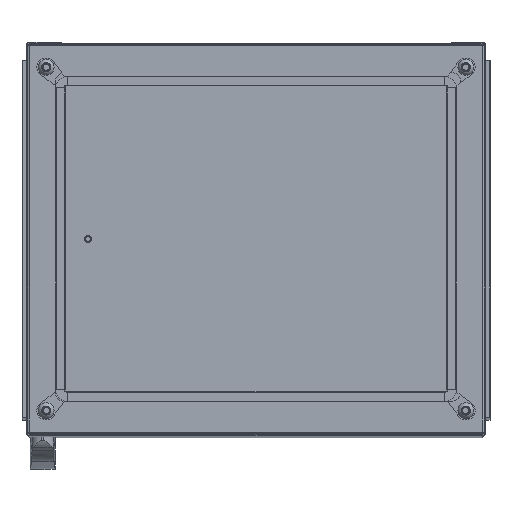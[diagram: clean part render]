
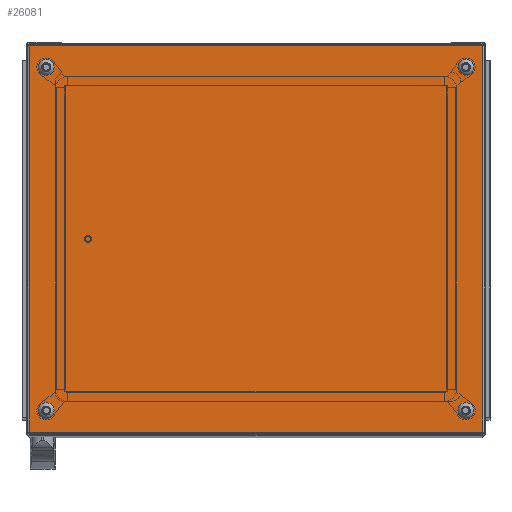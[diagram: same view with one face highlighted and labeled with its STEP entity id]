
A CAD part, top view. The second image highlights one B-rep face of the part: STEP entity #26081.
In plain terms, the highlighted planar face has unit normal (0, 0, 1).
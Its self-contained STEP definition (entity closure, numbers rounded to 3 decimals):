
#1303=CIRCLE('',#28033,6.);
#1304=CIRCLE('',#28034,6.);
#1305=CIRCLE('',#28035,6.);
#1306=CIRCLE('',#28036,6.);
#5003=ORIENTED_EDGE('',*,*,#11157,.F.);
#5004=ORIENTED_EDGE('',*,*,#11158,.F.);
#5005=ORIENTED_EDGE('',*,*,#11159,.F.);
#5006=ORIENTED_EDGE('',*,*,#11160,.F.);
#5007=ORIENTED_EDGE('',*,*,#11146,.T.);
#5008=ORIENTED_EDGE('',*,*,#11154,.T.);
#5009=ORIENTED_EDGE('',*,*,#11117,.F.);
#5010=ORIENTED_EDGE('',*,*,#11161,.F.);
#11117=EDGE_CURVE('',#14429,#14430,#17029,.T.);
#11146=EDGE_CURVE('',#14451,#14450,#17035,.T.);
#11154=EDGE_CURVE('',#14450,#14430,#17040,.T.);
#11157=EDGE_CURVE('',#14452,#14452,#1303,.T.);
#11158=EDGE_CURVE('',#14453,#14453,#1304,.T.);
#11159=EDGE_CURVE('',#14454,#14454,#1305,.T.);
#11160=EDGE_CURVE('',#14455,#14455,#1306,.T.);
#11161=EDGE_CURVE('',#14451,#14429,#17043,.T.);
#14429=VERTEX_POINT('',#40797);
#14430=VERTEX_POINT('',#40799);
#14450=VERTEX_POINT('',#40873);
#14451=VERTEX_POINT('',#40875);
#14452=VERTEX_POINT('',#40892);
#14453=VERTEX_POINT('',#40894);
#14454=VERTEX_POINT('',#40896);
#14455=VERTEX_POINT('',#40898);
#17029=LINE('',#40798,#19310);
#17035=LINE('',#40874,#19316);
#17040=LINE('',#40886,#19321);
#17043=LINE('',#40899,#19324);
#19310=VECTOR('',#32711,1000.);
#19316=VECTOR('',#32765,1000.);
#19321=VECTOR('',#32782,1000.);
#19324=VECTOR('',#32797,1000.);
#21289=EDGE_LOOP('',(#5003));
#21290=EDGE_LOOP('',(#5004));
#21291=EDGE_LOOP('',(#5005));
#21292=EDGE_LOOP('',(#5006));
#21293=EDGE_LOOP('',(#5007,#5008,#5009,#5010));
#23408=FACE_BOUND('',#21289,.T.);
#23409=FACE_BOUND('',#21290,.T.);
#23410=FACE_BOUND('',#21291,.T.);
#23411=FACE_BOUND('',#21292,.T.);
#23412=FACE_BOUND('',#21293,.T.);
#25184=PLANE('',#28032);
#26081=ADVANCED_FACE('',(#23408,#23409,#23410,#23411,#23412),#25184,.T.);
#28032=AXIS2_PLACEMENT_3D('',#40890,#32787,#32788);
#28033=AXIS2_PLACEMENT_3D('',#40891,#32789,#32790);
#28034=AXIS2_PLACEMENT_3D('',#40893,#32791,#32792);
#28035=AXIS2_PLACEMENT_3D('',#40895,#32793,#32794);
#28036=AXIS2_PLACEMENT_3D('',#40897,#32795,#32796);
#32711=DIRECTION('',(-1.,0.,0.));
#32765=DIRECTION('',(-1.,0.,0.));
#32782=DIRECTION('',(0.,-1.,0.));
#32787=DIRECTION('',(0.,0.,1.));
#32788=DIRECTION('',(1.,0.,0.));
#32789=DIRECTION('',(0.,0.,1.));
#32790=DIRECTION('',(1.,0.,0.));
#32791=DIRECTION('',(0.,0.,1.));
#32792=DIRECTION('',(1.,0.,0.));
#32793=DIRECTION('',(0.,0.,1.));
#32794=DIRECTION('',(1.,0.,0.));
#32795=DIRECTION('',(0.,0.,1.));
#32796=DIRECTION('',(1.,0.,0.));
#32797=DIRECTION('',(0.,-1.,0.));
#40797=CARTESIAN_POINT('',(296.5,-252.5,20.));
#40798=CARTESIAN_POINT('',(300.,-252.5,20.));
#40799=CARTESIAN_POINT('',(-296.5,-252.5,20.));
#40873=CARTESIAN_POINT('',(-296.5,252.5,20.));
#40874=CARTESIAN_POINT('',(300.,252.5,20.));
#40875=CARTESIAN_POINT('',(296.5,252.5,20.));
#40886=CARTESIAN_POINT('',(-296.5,255.5,20.));
#40890=CARTESIAN_POINT('',(-296.5,-252.5,20.));
#40891=CARTESIAN_POINT('',(274.5,-224.5,20.));
#40892=CARTESIAN_POINT('',(280.5,-224.5,20.));
#40893=CARTESIAN_POINT('',(-274.5,224.5,20.));
#40894=CARTESIAN_POINT('',(-268.5,224.5,20.));
#40895=CARTESIAN_POINT('',(274.5,224.5,20.));
#40896=CARTESIAN_POINT('',(280.5,224.5,20.));
#40897=CARTESIAN_POINT('',(-274.5,-224.5,20.));
#40898=CARTESIAN_POINT('',(-268.5,-224.5,20.));
#40899=CARTESIAN_POINT('',(296.5,255.5,20.));
